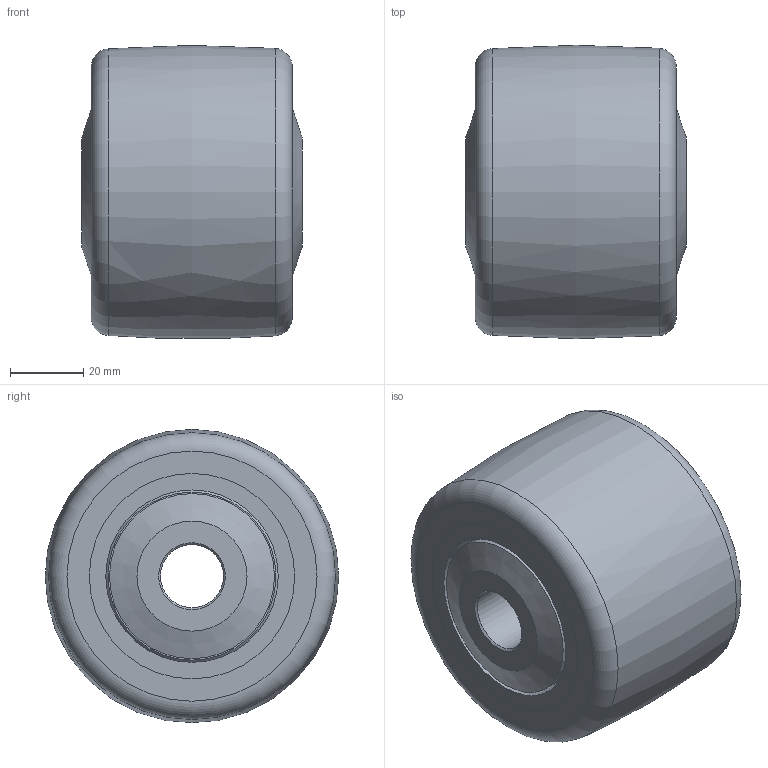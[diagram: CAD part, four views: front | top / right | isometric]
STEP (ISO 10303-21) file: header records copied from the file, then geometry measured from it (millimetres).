
FILE_DESCRIPTION(/* description */ (''),/* implementation_level */ '2;1');
FILE_NAME(/* name */ 'F:/기술영업부/홈페이지관련/2019/롤러도면/HURD-80-06017.step',/* time_stamp */ '2019-07-31T11:23:25+09:00',/* author */ (''),/* organization */ (''),/* preprocessor_version */ 'ST-DEVELOPER v18',/* originating_system */ 'Autodesk Translation Framework v8.2.0.1029',/* authorisation */ '');
FILE_SCHEMA (('AUTOMOTIVE_DESIGN { 1 0 10303 214 3 1 1 }'));
Length unit declared in the file: millimetre
Products named in the file (5): HURD-80-06017; Wheel Core; Uret; 6005; Wheel cover
Assembly tree (6 placements, depth 2):
  HURD-80-06017
    Wheel Core
    Uret
    6005  x2
    Wheel cover  x2
Bounding box: 60 x 80 x 79.92 mm (x, y, z)
Volume: 228164.2 mm3; surface area: 81324.3 mm2
Topology: 40 solids, 40 shells, 124 faces, 336 edges, 242 vertices
Faces by surface type: cylinder 37, plane 30, sphere 28, cone 18, torus 10, bspline 1
Full cylindrical faces by diameter (mm): 17.2 x2, 24.8 x2, 25 x2, 30 x2, 32.923 x8, 39.077 x8, 41 x1, 45 x2, 47 x4, 53 x2, 56 x4
Entity records: 2515 total; most frequent: DIRECTION 472, CARTESIAN_POINT 423, ORIENTED_EDGE 340, AXIS2_PLACEMENT_3D 219, EDGE_CURVE 170, VERTEX_POINT 143, CIRCLE 136, EDGE_LOOP 91
